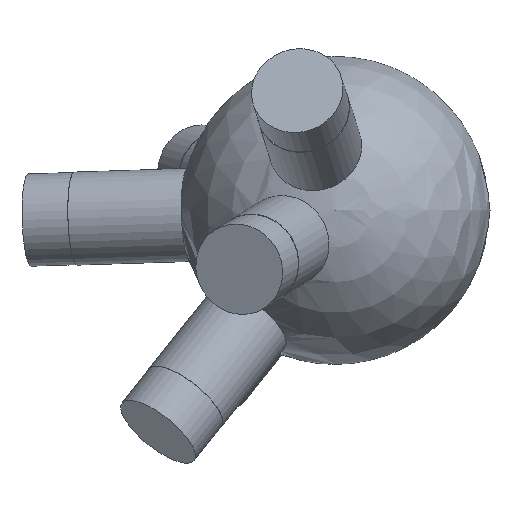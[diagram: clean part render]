
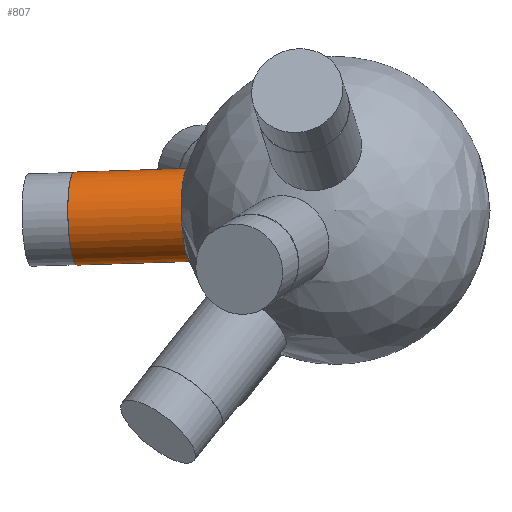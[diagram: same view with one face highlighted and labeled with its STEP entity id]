
A CAD part, top view. The second image highlights one B-rep face of the part: STEP entity #807.
In plain terms, the highlighted cylindrical face has radius 6 mm (diameter 12 mm), a full revolution.
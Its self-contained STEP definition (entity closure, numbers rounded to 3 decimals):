
#35 = SPHERICAL_SURFACE('',#36,20.);
#36 = AXIS2_PLACEMENT_3D('',#37,#38,#39);
#37 = CARTESIAN_POINT('',(0.,0.,0.));
#38 = DIRECTION('',(0.,0.,1.));
#39 = DIRECTION('',(1.,0.,-0.));
#265 = EDGE_CURVE('',#266,#266,#268,.T.);
#266 = VERTEX_POINT('',#267);
#267 = CARTESIAN_POINT('',(-17.78,-0.589,
    -9.139));
#268 = SURFACE_CURVE('',#269,(#274,#336),.PCURVE_S1.);
#269 = CIRCLE('',#270,6.);
#270 = AXIS2_PLACEMENT_3D('',#271,#272,#273);
#271 = CARTESIAN_POINT('',(-18.795,-0.589,
    -3.225));
#272 = DIRECTION('',(-0.985,-0.031,-0.169)
  );
#273 = DIRECTION('',(0.169,0.,-0.986)
  );
#274 = PCURVE('',#35,#275);
#275 = DEFINITIONAL_REPRESENTATION('',(#276),#335);
#276 = B_SPLINE_CURVE_WITH_KNOTS('',8,(#277,#278,#279,#280,#281,#282,
    #283,#284,#285,#286,#287,#288,#289,#290,#291,#292,#293,#294,#295,
    #296,#297,#298,#299,#300,#301,#302,#303,#304,#305,#306,#307,#308,
    #309,#310,#311,#312,#313,#314,#315,#316,#317,#318,#319,#320,#321,
    #322,#323,#324,#325,#326,#327,#328,#329,#330,#331,#332,#333,#334),
  .UNSPECIFIED.,.F.,.F.,(9,7,7,7,7,7,7,7,9),(0.,0.785,
    1.473,2.675,3.577,4.254,
    5.268,5.776,6.283),.UNSPECIFIED.);
#277 = CARTESIAN_POINT('',(3.175,-0.475));
#278 = CARTESIAN_POINT('',(3.208,-0.474));
#279 = CARTESIAN_POINT('',(3.241,-0.471));
#280 = CARTESIAN_POINT('',(3.273,-0.463));
#281 = CARTESIAN_POINT('',(3.304,-0.452));
#282 = CARTESIAN_POINT('',(3.333,-0.438));
#283 = CARTESIAN_POINT('',(3.36,-0.42));
#284 = CARTESIAN_POINT('',(3.384,-0.4));
#285 = CARTESIAN_POINT('',(3.423,-0.359));
#286 = CARTESIAN_POINT('',(3.439,-0.338));
#287 = CARTESIAN_POINT('',(3.452,-0.315));
#288 = CARTESIAN_POINT('',(3.463,-0.291));
#289 = CARTESIAN_POINT('',(3.472,-0.267));
#290 = CARTESIAN_POINT('',(3.478,-0.241));
#291 = CARTESIAN_POINT('',(3.481,-0.216));
#292 = CARTESIAN_POINT('',(3.484,-0.145));
#293 = CARTESIAN_POINT('',(3.478,-0.099));
#294 = CARTESIAN_POINT('',(3.465,-0.055));
#295 = CARTESIAN_POINT('',(3.444,-0.014));
#296 = CARTESIAN_POINT('',(3.418,0.024));
#297 = CARTESIAN_POINT('',(3.385,0.057));
#298 = CARTESIAN_POINT('',(3.348,0.084));
#299 = CARTESIAN_POINT('',(3.277,0.119));
#300 = CARTESIAN_POINT('',(3.244,0.13));
#301 = CARTESIAN_POINT('',(3.211,0.137));
#302 = CARTESIAN_POINT('',(3.176,0.139));
#303 = CARTESIAN_POINT('',(3.141,0.137));
#304 = CARTESIAN_POINT('',(3.107,0.131));
#305 = CARTESIAN_POINT('',(3.075,0.121));
#306 = CARTESIAN_POINT('',(3.021,0.096));
#307 = CARTESIAN_POINT('',(2.999,0.083));
#308 = CARTESIAN_POINT('',(2.978,0.068));
#309 = CARTESIAN_POINT('',(2.959,0.051));
#310 = CARTESIAN_POINT('',(2.941,0.032));
#311 = CARTESIAN_POINT('',(2.925,0.012));
#312 = CARTESIAN_POINT('',(2.911,-0.009));
#313 = CARTESIAN_POINT('',(2.882,-0.065));
#314 = CARTESIAN_POINT('',(2.869,-0.102));
#315 = CARTESIAN_POINT('',(2.861,-0.139));
#316 = CARTESIAN_POINT('',(2.858,-0.178));
#317 = CARTESIAN_POINT('',(2.861,-0.217));
#318 = CARTESIAN_POINT('',(2.869,-0.255));
#319 = CARTESIAN_POINT('',(2.883,-0.291));
#320 = CARTESIAN_POINT('',(2.911,-0.341));
#321 = CARTESIAN_POINT('',(2.922,-0.357));
#322 = CARTESIAN_POINT('',(2.934,-0.372));
#323 = CARTESIAN_POINT('',(2.948,-0.387));
#324 = CARTESIAN_POINT('',(2.962,-0.4));
#325 = CARTESIAN_POINT('',(2.978,-0.413));
#326 = CARTESIAN_POINT('',(2.995,-0.424));
#327 = CARTESIAN_POINT('',(3.031,-0.444));
#328 = CARTESIAN_POINT('',(3.05,-0.453));
#329 = CARTESIAN_POINT('',(3.069,-0.46));
#330 = CARTESIAN_POINT('',(3.09,-0.466));
#331 = CARTESIAN_POINT('',(3.111,-0.47));
#332 = CARTESIAN_POINT('',(3.132,-0.473));
#333 = CARTESIAN_POINT('',(3.153,-0.475));
#334 = CARTESIAN_POINT('',(3.175,-0.475));
#335 = ( GEOMETRIC_REPRESENTATION_CONTEXT(2) 
PARAMETRIC_REPRESENTATION_CONTEXT() REPRESENTATION_CONTEXT('2D SPACE',''
  ) );
#336 = PCURVE('',#337,#342);
#337 = CYLINDRICAL_SURFACE('',#338,6.);
#338 = AXIS2_PLACEMENT_3D('',#339,#340,#341);
#339 = CARTESIAN_POINT('',(0.,0.,0.));
#340 = DIRECTION('',(-0.985,-0.031,-0.169)
  );
#341 = DIRECTION('',(0.169,0.,-0.986)
  );
#342 = DEFINITIONAL_REPRESENTATION('',(#343),#347);
#343 = LINE('',#344,#345);
#344 = CARTESIAN_POINT('',(0.,19.079));
#345 = VECTOR('',#346,1.);
#346 = DIRECTION('',(1.,0.));
#347 = ( GEOMETRIC_REPRESENTATION_CONTEXT(2) 
PARAMETRIC_REPRESENTATION_CONTEXT() REPRESENTATION_CONTEXT('2D SPACE',''
  ) );
#807 = ADVANCED_FACE('',(#808),#337,.T.);
#808 = FACE_BOUND('',#809,.T.);
#809 = EDGE_LOOP('',(#810,#833,#860,#861));
#810 = ORIENTED_EDGE('',*,*,#811,.T.);
#811 = EDGE_CURVE('',#266,#812,#814,.T.);
#812 = VERTEX_POINT('',#813);
#813 = CARTESIAN_POINT('',(-32.42,-1.047,
    -11.65));
#814 = SEAM_CURVE('',#815,(#819,#826),.PCURVE_S1.);
#815 = LINE('',#816,#817);
#816 = CARTESIAN_POINT('',(1.015,0.,
    -5.914));
#817 = VECTOR('',#818,1.);
#818 = DIRECTION('',(-0.985,-0.031,-0.169)
  );
#819 = PCURVE('',#337,#820);
#820 = DEFINITIONAL_REPRESENTATION('',(#821),#825);
#821 = LINE('',#822,#823);
#822 = CARTESIAN_POINT('',(6.283,-0.));
#823 = VECTOR('',#824,1.);
#824 = DIRECTION('',(0.,1.));
#825 = ( GEOMETRIC_REPRESENTATION_CONTEXT(2) 
PARAMETRIC_REPRESENTATION_CONTEXT() REPRESENTATION_CONTEXT('2D SPACE',''
  ) );
#826 = PCURVE('',#337,#827);
#827 = DEFINITIONAL_REPRESENTATION('',(#828),#832);
#828 = LINE('',#829,#830);
#829 = CARTESIAN_POINT('',(0.,-0.));
#830 = VECTOR('',#831,1.);
#831 = DIRECTION('',(0.,1.));
#832 = ( GEOMETRIC_REPRESENTATION_CONTEXT(2) 
PARAMETRIC_REPRESENTATION_CONTEXT() REPRESENTATION_CONTEXT('2D SPACE',''
  ) );
#833 = ORIENTED_EDGE('',*,*,#834,.F.);
#834 = EDGE_CURVE('',#812,#812,#835,.T.);
#835 = SURFACE_CURVE('',#836,(#841,#848),.PCURVE_S1.);
#836 = CIRCLE('',#837,6.);
#837 = AXIS2_PLACEMENT_3D('',#838,#839,#840);
#838 = CARTESIAN_POINT('',(-33.435,-1.047,
    -5.737));
#839 = DIRECTION('',(-0.985,-0.031,-0.169)
  );
#840 = DIRECTION('',(0.169,0.,-0.986)
  );
#841 = PCURVE('',#337,#842);
#842 = DEFINITIONAL_REPRESENTATION('',(#843),#847);
#843 = LINE('',#844,#845);
#844 = CARTESIAN_POINT('',(0.,33.939));
#845 = VECTOR('',#846,1.);
#846 = DIRECTION('',(1.,0.));
#847 = ( GEOMETRIC_REPRESENTATION_CONTEXT(2) 
PARAMETRIC_REPRESENTATION_CONTEXT() REPRESENTATION_CONTEXT('2D SPACE',''
  ) );
#848 = PCURVE('',#849,#854);
#849 = PLANE('',#850);
#850 = AXIS2_PLACEMENT_3D('',#851,#852,#853);
#851 = CARTESIAN_POINT('',(-33.435,-1.047,
    -5.737));
#852 = DIRECTION('',(-0.985,-0.031,-0.169)
  );
#853 = DIRECTION('',(0.169,0.,-0.986)
  );
#854 = DEFINITIONAL_REPRESENTATION('',(#855),#859);
#855 = CIRCLE('',#856,6.);
#856 = AXIS2_PLACEMENT_2D('',#857,#858);
#857 = CARTESIAN_POINT('',(0.,0.));
#858 = DIRECTION('',(1.,0.));
#859 = ( GEOMETRIC_REPRESENTATION_CONTEXT(2) 
PARAMETRIC_REPRESENTATION_CONTEXT() REPRESENTATION_CONTEXT('2D SPACE',''
  ) );
#860 = ORIENTED_EDGE('',*,*,#811,.F.);
#861 = ORIENTED_EDGE('',*,*,#265,.T.);
